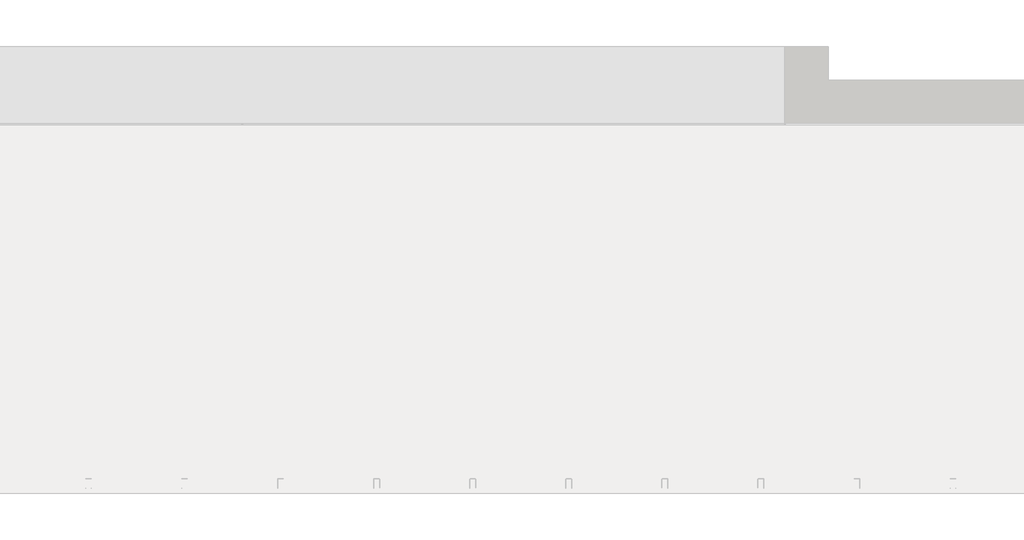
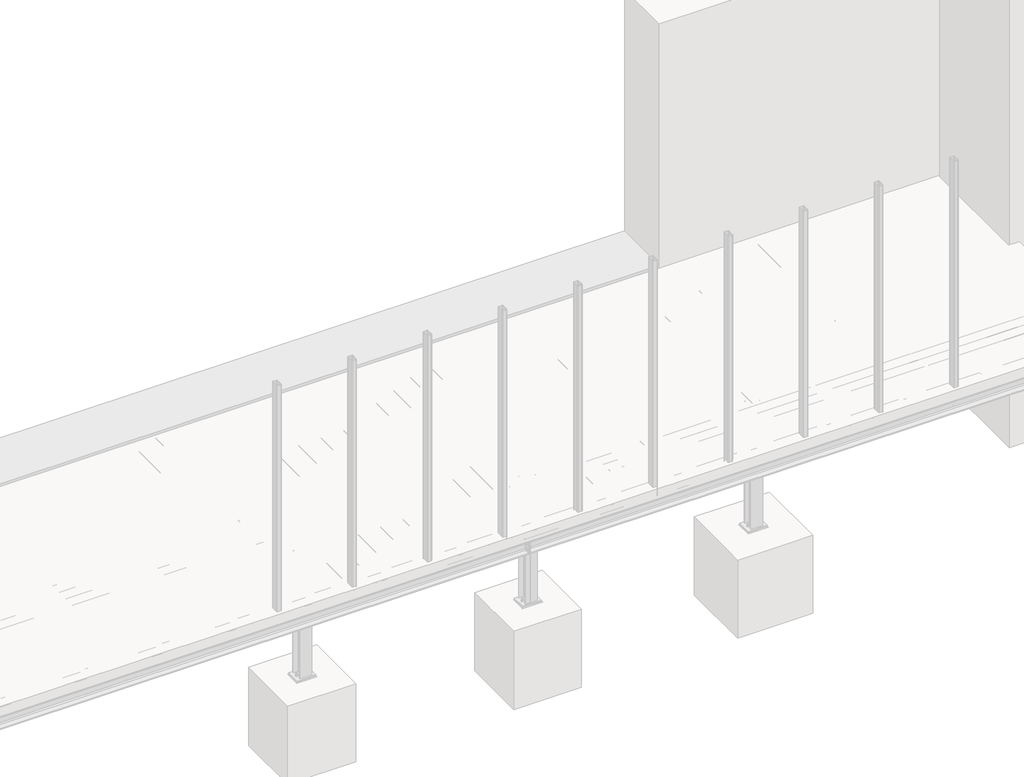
# One storey, part 30 of 36: 3 assemblies.
"""IFC4 building model written with IfcOpenShell, lengths in millimetres."""

from ifc_helpers import new_model, si_unit, point, frame, frame_2d, origin, place, context, project, spatial, polyline, circle_curve, trimmed, segment, composite_curve, outline, extrude, element, save

model = new_model("IFC4")

# Units and contexts
model_context = context("Model", 3, world=origin())
ifc_project = project(units=[si_unit("LENGTHUNIT", "METRE", prefix="MILLI")], contexts=[model_context])

# Site, building, storey
site = spatial("IfcSite", under=ifc_project)
building = spatial("IfcBuilding", under=site)
storey = spatial("IfcBuildingStorey", under=building, Name="Základy", Elevation=-1200.0)

# Assemblies
placement = place(None, origin())
element("IfcElementAssembly", 1, at=placement, inside=storey, context=model_context, shape_type="SweptSolid", body=[
    extrude(outline(polyline([(3860.0, -160.0), (3860.0, -340.0), (3785.0, -340.0), (3785.0, -329.5), (3854.5, -329.5), (3854.5, -170.5), (3785.0, -170.5), (3785.0, -160.0), (3860.0, -160.0)])), frame((6660.0, 0.0, 0.0), z_axis=(1.0, 0.0, 0.0), x_axis=(0.0, 1.0, 0.0)), (0.0, 0.0, 1.0), 5635.0),
    extrude(outline(composite_curve([segment(polyline([(3785.0, -170.5), (3834.5, -170.5)]), True, "CONTINUOUS"), segment(trimmed(circle_curve(frame_2d((3854.5, -170.5)), 20.0), [point((3834.5, -170.5))], [point((3854.5, -190.5))], True, "CARTESIAN"), True, "CONTINUOUS"), segment(polyline([(3854.5, -190.5), (3854.5, -309.5)]), True, "CONTINUOUS"), segment(trimmed(circle_curve(frame_2d((3854.5, -329.5)), 20.0), [point((3854.5, -309.5))], [point((3834.5, -329.5))], True, "CARTESIAN"), True, "CONTINUOUS"), segment(polyline([(3834.5, -329.5), (3785.0, -329.5), (3785.0, -170.5)]), True, "CONTINUOUS")], self_intersect=False)), frame((9046.0, 0.0, 0.0), z_axis=(1.0, 0.0, 0.0), x_axis=(0.0, 1.0, 0.0)), (0.0, 0.0, 1.0), 8.0),
    extrude(outline(polyline([(8960.0, 3785.0), (9140.0, 3785.0), (9140.0, 3775.0), (8960.0, 3775.0), (8960.0, 3785.0)])), frame((0.0, 0.0, -332.0), z_axis=(0.0, 0.0, 1.0), x_axis=(1.0, 0.0, 0.0)), (0.0, 0.0, 1.0), 164.0),
    extrude(outline(composite_curve([segment(polyline([(3785.0, -170.5), (3834.5, -170.5)]), True, "CONTINUOUS"), segment(trimmed(circle_curve(frame_2d((3854.5, -170.5)), 20.0), [point((3834.5, -170.5))], [point((3854.5, -190.5))], True, "CARTESIAN"), True, "CONTINUOUS"), segment(polyline([(3854.5, -190.5), (3854.5, -309.5)]), True, "CONTINUOUS"), segment(trimmed(circle_curve(frame_2d((3854.5, -329.5)), 20.0), [point((3854.5, -309.5))], [point((3834.5, -329.5))], True, "CARTESIAN"), True, "CONTINUOUS"), segment(polyline([(3834.5, -329.5), (3785.0, -329.5), (3785.0, -170.5)]), True, "CONTINUOUS")], self_intersect=False)), frame((12046.0, 0.0, 0.0), z_axis=(1.0, 0.0, 0.0), x_axis=(0.0, 1.0, 0.0)), (0.0, 0.0, 1.0), 8.0),
    extrude(outline(polyline([(11960.0, 3785.0), (12140.0, 3785.0), (12140.0, 3775.0), (11960.0, 3775.0), (11960.0, 3785.0)])), frame((0.0, 0.0, -332.0), z_axis=(0.0, 0.0, 1.0), x_axis=(1.0, 0.0, 0.0)), (0.0, 0.0, 1.0), 164.0),
    extrude(outline(polyline([(6660.0, 3855.0), (6660.0, 3785.0), (6650.0, 3785.0), (6650.0, 3855.0), (6660.0, 3855.0)])), frame((0.0, 0.0, -329.5), z_axis=(0.0, 0.0, 1.0), x_axis=(1.0, 0.0, 0.0)), (0.0, 0.0, 1.0), 159.0),
    extrude(outline(polyline([(12305.0, 3855.0), (12305.0, 3765.0), (12295.0, 3765.0), (12295.0, 3855.0), (12305.0, 3855.0)])), frame((0.0, 0.0, -329.5), z_axis=(0.0, 0.0, 1.0), x_axis=(1.0, 0.0, 0.0)), (0.0, 0.0, 1.0), 159.0),
    extrude(outline(composite_curve([segment(trimmed(circle_curve(frame_2d((-220.0, 9005.0)), 9.0), [point((-220.0, 9014.0))], [point((-220.0, 8996.0))], False, "CARTESIAN"), True, "CONTINUOUS"), segment(trimmed(circle_curve(frame_2d((-220.0, 9005.0)), 9.0), [point((-220.0, 8996.0))], [point((-220.0, 9014.0))], False, "CARTESIAN"), True, "CONTINUOUS")], self_intersect=False)), frame((0.0, 3774.9, 0.0), z_axis=(0.0, 1.0, 0.0), x_axis=(0.0, 0.0, 1.0)), (0.0, 0.0, 1.0), 10.0),
    extrude(outline(polyline([(-220.0, 9018.8564065), (-208.0, 9011.9282032), (-208.0, 8998.0717968), (-220.0, 8991.1435935), (-232.0, 8998.0717968), (-232.0, 9011.9282032), (-220.0, 9018.8564065)])), frame((0.0, 3788.0, 0.0), z_axis=(0.0, 1.0, 0.0), x_axis=(0.0, 0.0, 1.0)), (0.0, 0.0, 1.0), 10.0),
    extrude(outline(composite_curve([segment(trimmed(circle_curve(frame_2d((-220.0, 9005.0)), 8.0), [point((-220.0, 9013.0))], [point((-220.0, 8997.0))], False, "CARTESIAN"), True, "CONTINUOUS"), segment(trimmed(circle_curve(frame_2d((-220.0, 9005.0)), 8.0), [point((-220.0, 8997.0))], [point((-220.0, 9013.0))], False, "CARTESIAN"), True, "CONTINUOUS")], self_intersect=False)), frame((0.0, 3738.0, 0.0), z_axis=(0.0, 1.0, 0.0), x_axis=(0.0, 0.0, 1.0)), (0.0, 0.0, 1.0), 50.0),
    extrude(outline(composite_curve([segment(trimmed(circle_curve(frame_2d((-220.0, 9005.0)), 15.0), [point((-220.0, 9020.0))], [point((-220.0, 8990.0))], False, "CARTESIAN"), True, "CONTINUOUS"), segment(trimmed(circle_curve(frame_2d((-220.0, 9005.0)), 15.0), [point((-220.0, 8990.0))], [point((-220.0, 9020.0))], False, "CARTESIAN"), True, "CONTINUOUS")], self_intersect=False)), frame((0.0, 3785.0, 0.0), z_axis=(0.0, 1.0, 0.0), x_axis=(0.0, 0.0, 1.0)), (0.0, 0.0, 1.0), 3.0),
    extrude(outline(composite_curve([segment(trimmed(circle_curve(frame_2d((-220.0, 9005.0)), 15.0), [point((-220.0, 9020.0))], [point((-220.0, 8990.0))], False, "CARTESIAN"), True, "CONTINUOUS"), segment(trimmed(circle_curve(frame_2d((-220.0, 9005.0)), 15.0), [point((-220.0, 8990.0))], [point((-220.0, 9020.0))], False, "CARTESIAN"), True, "CONTINUOUS")], self_intersect=False)), frame((0.0, 3764.0, 0.0), z_axis=(0.0, 1.0, 0.0), x_axis=(0.0, 0.0, 1.0)), (0.0, 0.0, 1.0), 3.0),
    extrude(outline(polyline([(-220.0, 9020.4441197), (-206.625, 9012.7220599), (-206.625, 8997.2779401), (-220.0, 8989.5558803), (-233.375, 8997.2779401), (-233.375, 9012.7220599), (-220.0, 9020.4441197)])), frame((0.0, 3751.0, 0.0), z_axis=(0.0, 1.0, 0.0), x_axis=(0.0, 0.0, 1.0)), (0.0, 0.0, 1.0), 13.0),
    extrude(outline(composite_curve([segment(trimmed(circle_curve(frame_2d((-220.0, 9005.0)), 9.0), [point((-220.0, 9014.0))], [point((-220.0, 8996.0))], False, "CARTESIAN"), True, "CONTINUOUS"), segment(trimmed(circle_curve(frame_2d((-220.0, 9005.0)), 9.0), [point((-220.0, 8996.0))], [point((-220.0, 9014.0))], False, "CARTESIAN"), True, "CONTINUOUS")], self_intersect=False)), frame((0.0, 3767.0, 0.0), z_axis=(0.0, 1.0, 0.0), x_axis=(0.0, 0.0, 1.0)), (0.0, 0.0, 1.0), 8.1),
    extrude(outline(composite_curve([segment(trimmed(circle_curve(frame_2d((-220.0, 9095.0)), 9.0), [point((-220.0, 9104.0))], [point((-220.0, 9086.0))], False, "CARTESIAN"), True, "CONTINUOUS"), segment(trimmed(circle_curve(frame_2d((-220.0, 9095.0)), 9.0), [point((-220.0, 9086.0))], [point((-220.0, 9104.0))], False, "CARTESIAN"), True, "CONTINUOUS")], self_intersect=False)), frame((0.0, 3774.9, 0.0), z_axis=(0.0, 1.0, 0.0), x_axis=(0.0, 0.0, 1.0)), (0.0, 0.0, 1.0), 10.0),
    extrude(outline(polyline([(-220.0, 9108.8564065), (-208.0, 9101.9282032), (-208.0, 9088.0717968), (-220.0, 9081.1435935), (-232.0, 9088.0717968), (-232.0, 9101.9282032), (-220.0, 9108.8564065)])), frame((0.0, 3788.0, 0.0), z_axis=(0.0, 1.0, 0.0), x_axis=(0.0, 0.0, 1.0)), (0.0, 0.0, 1.0), 10.0),
    extrude(outline(composite_curve([segment(trimmed(circle_curve(frame_2d((-220.0, 9095.0)), 8.0), [point((-220.0, 9103.0))], [point((-220.0, 9087.0))], False, "CARTESIAN"), True, "CONTINUOUS"), segment(trimmed(circle_curve(frame_2d((-220.0, 9095.0)), 8.0), [point((-220.0, 9087.0))], [point((-220.0, 9103.0))], False, "CARTESIAN"), True, "CONTINUOUS")], self_intersect=False)), frame((0.0, 3738.0, 0.0), z_axis=(0.0, 1.0, 0.0), x_axis=(0.0, 0.0, 1.0)), (0.0, 0.0, 1.0), 50.0),
    extrude(outline(composite_curve([segment(trimmed(circle_curve(frame_2d((-220.0, 9095.0)), 15.0), [point((-220.0, 9110.0))], [point((-220.0, 9080.0))], False, "CARTESIAN"), True, "CONTINUOUS"), segment(trimmed(circle_curve(frame_2d((-220.0, 9095.0)), 15.0), [point((-220.0, 9080.0))], [point((-220.0, 9110.0))], False, "CARTESIAN"), True, "CONTINUOUS")], self_intersect=False)), frame((0.0, 3785.0, 0.0), z_axis=(0.0, 1.0, 0.0), x_axis=(0.0, 0.0, 1.0)), (0.0, 0.0, 1.0), 3.0),
    extrude(outline(composite_curve([segment(trimmed(circle_curve(frame_2d((-220.0, 9095.0)), 15.0), [point((-220.0, 9110.0))], [point((-220.0, 9080.0))], False, "CARTESIAN"), True, "CONTINUOUS"), segment(trimmed(circle_curve(frame_2d((-220.0, 9095.0)), 15.0), [point((-220.0, 9080.0))], [point((-220.0, 9110.0))], False, "CARTESIAN"), True, "CONTINUOUS")], self_intersect=False)), frame((0.0, 3764.0, 0.0), z_axis=(0.0, 1.0, 0.0), x_axis=(0.0, 0.0, 1.0)), (0.0, 0.0, 1.0), 3.0),
    extrude(outline(polyline([(-220.0, 9110.4441197), (-206.625, 9102.7220599), (-206.625, 9087.2779401), (-220.0, 9079.5558803), (-233.375, 9087.2779401), (-233.375, 9102.7220599), (-220.0, 9110.4441197)])), frame((0.0, 3751.0, 0.0), z_axis=(0.0, 1.0, 0.0), x_axis=(0.0, 0.0, 1.0)), (0.0, 0.0, 1.0), 13.0),
    extrude(outline(composite_curve([segment(trimmed(circle_curve(frame_2d((-220.0, 9095.0)), 9.0), [point((-220.0, 9104.0))], [point((-220.0, 9086.0))], False, "CARTESIAN"), True, "CONTINUOUS"), segment(trimmed(circle_curve(frame_2d((-220.0, 9095.0)), 9.0), [point((-220.0, 9086.0))], [point((-220.0, 9104.0))], False, "CARTESIAN"), True, "CONTINUOUS")], self_intersect=False)), frame((0.0, 3767.0, 0.0), z_axis=(0.0, 1.0, 0.0), x_axis=(0.0, 0.0, 1.0)), (0.0, 0.0, 1.0), 8.1),
    extrude(outline(composite_curve([segment(trimmed(circle_curve(frame_2d((-280.0, 9005.0)), 9.0), [point((-280.0, 9014.0))], [point((-280.0, 8996.0))], False, "CARTESIAN"), True, "CONTINUOUS"), segment(trimmed(circle_curve(frame_2d((-280.0, 9005.0)), 9.0), [point((-280.0, 8996.0))], [point((-280.0, 9014.0))], False, "CARTESIAN"), True, "CONTINUOUS")], self_intersect=False)), frame((0.0, 3774.9, 0.0), z_axis=(0.0, 1.0, 0.0), x_axis=(0.0, 0.0, 1.0)), (0.0, 0.0, 1.0), 10.0),
    extrude(outline(polyline([(-280.0, 9018.8564065), (-268.0, 9011.9282032), (-268.0, 8998.0717968), (-280.0, 8991.1435935), (-292.0, 8998.0717968), (-292.0, 9011.9282032), (-280.0, 9018.8564065)])), frame((0.0, 3788.0, 0.0), z_axis=(0.0, 1.0, 0.0), x_axis=(0.0, 0.0, 1.0)), (0.0, 0.0, 1.0), 10.0),
    extrude(outline(composite_curve([segment(trimmed(circle_curve(frame_2d((-280.0, 9005.0)), 8.0), [point((-280.0, 9013.0))], [point((-280.0, 8997.0))], False, "CARTESIAN"), True, "CONTINUOUS"), segment(trimmed(circle_curve(frame_2d((-280.0, 9005.0)), 8.0), [point((-280.0, 8997.0))], [point((-280.0, 9013.0))], False, "CARTESIAN"), True, "CONTINUOUS")], self_intersect=False)), frame((0.0, 3738.0, 0.0), z_axis=(0.0, 1.0, 0.0), x_axis=(0.0, 0.0, 1.0)), (0.0, 0.0, 1.0), 50.0),
    extrude(outline(composite_curve([segment(trimmed(circle_curve(frame_2d((-280.0, 9005.0)), 15.0), [point((-280.0, 9020.0))], [point((-280.0, 8990.0))], False, "CARTESIAN"), True, "CONTINUOUS"), segment(trimmed(circle_curve(frame_2d((-280.0, 9005.0)), 15.0), [point((-280.0, 8990.0))], [point((-280.0, 9020.0))], False, "CARTESIAN"), True, "CONTINUOUS")], self_intersect=False)), frame((0.0, 3785.0, 0.0), z_axis=(0.0, 1.0, 0.0), x_axis=(0.0, 0.0, 1.0)), (0.0, 0.0, 1.0), 3.0),
    extrude(outline(composite_curve([segment(trimmed(circle_curve(frame_2d((-280.0, 9005.0)), 15.0), [point((-280.0, 9020.0))], [point((-280.0, 8990.0))], False, "CARTESIAN"), True, "CONTINUOUS"), segment(trimmed(circle_curve(frame_2d((-280.0, 9005.0)), 15.0), [point((-280.0, 8990.0))], [point((-280.0, 9020.0))], False, "CARTESIAN"), True, "CONTINUOUS")], self_intersect=False)), frame((0.0, 3764.0, 0.0), z_axis=(0.0, 1.0, 0.0), x_axis=(0.0, 0.0, 1.0)), (0.0, 0.0, 1.0), 3.0),
    extrude(outline(polyline([(-280.0, 9020.4441197), (-266.625, 9012.7220599), (-266.625, 8997.2779401), (-280.0, 8989.5558803), (-293.375, 8997.2779401), (-293.375, 9012.7220599), (-280.0, 9020.4441197)])), frame((0.0, 3751.0, 0.0), z_axis=(0.0, 1.0, 0.0), x_axis=(0.0, 0.0, 1.0)), (0.0, 0.0, 1.0), 13.0),
    extrude(outline(composite_curve([segment(trimmed(circle_curve(frame_2d((-280.0, 9005.0)), 9.0), [point((-280.0, 9014.0))], [point((-280.0, 8996.0))], False, "CARTESIAN"), True, "CONTINUOUS"), segment(trimmed(circle_curve(frame_2d((-280.0, 9005.0)), 9.0), [point((-280.0, 8996.0))], [point((-280.0, 9014.0))], False, "CARTESIAN"), True, "CONTINUOUS")], self_intersect=False)), frame((0.0, 3767.0, 0.0), z_axis=(0.0, 1.0, 0.0), x_axis=(0.0, 0.0, 1.0)), (0.0, 0.0, 1.0), 8.1),
    extrude(outline(composite_curve([segment(trimmed(circle_curve(frame_2d((-280.0, 9095.0)), 9.0), [point((-280.0, 9104.0))], [point((-280.0, 9086.0))], False, "CARTESIAN"), True, "CONTINUOUS"), segment(trimmed(circle_curve(frame_2d((-280.0, 9095.0)), 9.0), [point((-280.0, 9086.0))], [point((-280.0, 9104.0))], False, "CARTESIAN"), True, "CONTINUOUS")], self_intersect=False)), frame((0.0, 3774.9, 0.0), z_axis=(0.0, 1.0, 0.0), x_axis=(0.0, 0.0, 1.0)), (0.0, 0.0, 1.0), 10.0),
    extrude(outline(polyline([(-280.0, 9108.8564065), (-268.0, 9101.9282032), (-268.0, 9088.0717968), (-280.0, 9081.1435935), (-292.0, 9088.0717968), (-292.0, 9101.9282032), (-280.0, 9108.8564065)])), frame((0.0, 3788.0, 0.0), z_axis=(0.0, 1.0, 0.0), x_axis=(0.0, 0.0, 1.0)), (0.0, 0.0, 1.0), 10.0),
    extrude(outline(composite_curve([segment(trimmed(circle_curve(frame_2d((-280.0, 9095.0)), 8.0), [point((-280.0, 9103.0))], [point((-280.0, 9087.0))], False, "CARTESIAN"), True, "CONTINUOUS"), segment(trimmed(circle_curve(frame_2d((-280.0, 9095.0)), 8.0), [point((-280.0, 9087.0))], [point((-280.0, 9103.0))], False, "CARTESIAN"), True, "CONTINUOUS")], self_intersect=False)), frame((0.0, 3738.0, 0.0), z_axis=(0.0, 1.0, 0.0), x_axis=(0.0, 0.0, 1.0)), (0.0, 0.0, 1.0), 50.0),
    extrude(outline(composite_curve([segment(trimmed(circle_curve(frame_2d((-280.0, 9095.0)), 15.0), [point((-280.0, 9110.0))], [point((-280.0, 9080.0))], False, "CARTESIAN"), True, "CONTINUOUS"), segment(trimmed(circle_curve(frame_2d((-280.0, 9095.0)), 15.0), [point((-280.0, 9080.0))], [point((-280.0, 9110.0))], False, "CARTESIAN"), True, "CONTINUOUS")], self_intersect=False)), frame((0.0, 3785.0, 0.0), z_axis=(0.0, 1.0, 0.0), x_axis=(0.0, 0.0, 1.0)), (0.0, 0.0, 1.0), 3.0),
    extrude(outline(composite_curve([segment(trimmed(circle_curve(frame_2d((-280.0, 9095.0)), 15.0), [point((-280.0, 9110.0))], [point((-280.0, 9080.0))], False, "CARTESIAN"), True, "CONTINUOUS"), segment(trimmed(circle_curve(frame_2d((-280.0, 9095.0)), 15.0), [point((-280.0, 9080.0))], [point((-280.0, 9110.0))], False, "CARTESIAN"), True, "CONTINUOUS")], self_intersect=False)), frame((0.0, 3764.0, 0.0), z_axis=(0.0, 1.0, 0.0), x_axis=(0.0, 0.0, 1.0)), (0.0, 0.0, 1.0), 3.0),
    extrude(outline(polyline([(-280.0, 9110.4441197), (-266.625, 9102.7220599), (-266.625, 9087.2779401), (-280.0, 9079.5558803), (-293.375, 9087.2779401), (-293.375, 9102.7220599), (-280.0, 9110.4441197)])), frame((0.0, 3751.0, 0.0), z_axis=(0.0, 1.0, 0.0), x_axis=(0.0, 0.0, 1.0)), (0.0, 0.0, 1.0), 13.0),
    extrude(outline(composite_curve([segment(trimmed(circle_curve(frame_2d((-280.0, 9095.0)), 9.0), [point((-280.0, 9104.0))], [point((-280.0, 9086.0))], False, "CARTESIAN"), True, "CONTINUOUS"), segment(trimmed(circle_curve(frame_2d((-280.0, 9095.0)), 9.0), [point((-280.0, 9086.0))], [point((-280.0, 9104.0))], False, "CARTESIAN"), True, "CONTINUOUS")], self_intersect=False)), frame((0.0, 3767.0, 0.0), z_axis=(0.0, 1.0, 0.0), x_axis=(0.0, 0.0, 1.0)), (0.0, 0.0, 1.0), 8.1),
    extrude(outline(composite_curve([segment(trimmed(circle_curve(frame_2d((-220.0, 12005.0)), 9.0), [point((-220.0, 12014.0))], [point((-220.0, 11996.0))], False, "CARTESIAN"), True, "CONTINUOUS"), segment(trimmed(circle_curve(frame_2d((-220.0, 12005.0)), 9.0), [point((-220.0, 11996.0))], [point((-220.0, 12014.0))], False, "CARTESIAN"), True, "CONTINUOUS")], self_intersect=False)), frame((0.0, 3774.9, 0.0), z_axis=(0.0, 1.0, 0.0), x_axis=(0.0, 0.0, 1.0)), (0.0, 0.0, 1.0), 10.0),
    extrude(outline(polyline([(-220.0, 12018.8564065), (-208.0, 12011.9282032), (-208.0, 11998.0717968), (-220.0, 11991.1435935), (-232.0, 11998.0717968), (-232.0, 12011.9282032), (-220.0, 12018.8564065)])), frame((0.0, 3788.0, 0.0), z_axis=(0.0, 1.0, 0.0), x_axis=(0.0, 0.0, 1.0)), (0.0, 0.0, 1.0), 10.0),
    extrude(outline(composite_curve([segment(trimmed(circle_curve(frame_2d((-220.0, 12005.0)), 8.0), [point((-220.0, 12013.0))], [point((-220.0, 11997.0))], False, "CARTESIAN"), True, "CONTINUOUS"), segment(trimmed(circle_curve(frame_2d((-220.0, 12005.0)), 8.0), [point((-220.0, 11997.0))], [point((-220.0, 12013.0))], False, "CARTESIAN"), True, "CONTINUOUS")], self_intersect=False)), frame((0.0, 3738.0, 0.0), z_axis=(0.0, 1.0, 0.0), x_axis=(0.0, 0.0, 1.0)), (0.0, 0.0, 1.0), 50.0),
    extrude(outline(composite_curve([segment(trimmed(circle_curve(frame_2d((-220.0, 12005.0)), 15.0), [point((-220.0, 12020.0))], [point((-220.0, 11990.0))], False, "CARTESIAN"), True, "CONTINUOUS"), segment(trimmed(circle_curve(frame_2d((-220.0, 12005.0)), 15.0), [point((-220.0, 11990.0))], [point((-220.0, 12020.0))], False, "CARTESIAN"), True, "CONTINUOUS")], self_intersect=False)), frame((0.0, 3785.0, 0.0), z_axis=(0.0, 1.0, 0.0), x_axis=(0.0, 0.0, 1.0)), (0.0, 0.0, 1.0), 3.0),
    extrude(outline(composite_curve([segment(trimmed(circle_curve(frame_2d((-220.0, 12005.0)), 15.0), [point((-220.0, 12020.0))], [point((-220.0, 11990.0))], False, "CARTESIAN"), True, "CONTINUOUS"), segment(trimmed(circle_curve(frame_2d((-220.0, 12005.0)), 15.0), [point((-220.0, 11990.0))], [point((-220.0, 12020.0))], False, "CARTESIAN"), True, "CONTINUOUS")], self_intersect=False)), frame((0.0, 3764.0, 0.0), z_axis=(0.0, 1.0, 0.0), x_axis=(0.0, 0.0, 1.0)), (0.0, 0.0, 1.0), 3.0),
    extrude(outline(polyline([(-220.0, 12020.4441197), (-206.625, 12012.7220599), (-206.625, 11997.2779401), (-220.0, 11989.5558803), (-233.375, 11997.2779401), (-233.375, 12012.7220599), (-220.0, 12020.4441197)])), frame((0.0, 3751.0, 0.0), z_axis=(0.0, 1.0, 0.0), x_axis=(0.0, 0.0, 1.0)), (0.0, 0.0, 1.0), 13.0),
    extrude(outline(composite_curve([segment(trimmed(circle_curve(frame_2d((-220.0, 12005.0)), 9.0), [point((-220.0, 12014.0))], [point((-220.0, 11996.0))], False, "CARTESIAN"), True, "CONTINUOUS"), segment(trimmed(circle_curve(frame_2d((-220.0, 12005.0)), 9.0), [point((-220.0, 11996.0))], [point((-220.0, 12014.0))], False, "CARTESIAN"), True, "CONTINUOUS")], self_intersect=False)), frame((0.0, 3767.0, 0.0), z_axis=(0.0, 1.0, 0.0), x_axis=(0.0, 0.0, 1.0)), (0.0, 0.0, 1.0), 8.1),
    extrude(outline(composite_curve([segment(trimmed(circle_curve(frame_2d((-220.0, 12095.0)), 9.0), [point((-220.0, 12104.0))], [point((-220.0, 12086.0))], False, "CARTESIAN"), True, "CONTINUOUS"), segment(trimmed(circle_curve(frame_2d((-220.0, 12095.0)), 9.0), [point((-220.0, 12086.0))], [point((-220.0, 12104.0))], False, "CARTESIAN"), True, "CONTINUOUS")], self_intersect=False)), frame((0.0, 3774.9, 0.0), z_axis=(0.0, 1.0, 0.0), x_axis=(0.0, 0.0, 1.0)), (0.0, 0.0, 1.0), 10.0),
    extrude(outline(polyline([(-220.0, 12108.8564065), (-208.0, 12101.9282032), (-208.0, 12088.0717968), (-220.0, 12081.1435935), (-232.0, 12088.0717968), (-232.0, 12101.9282032), (-220.0, 12108.8564065)])), frame((0.0, 3788.0, 0.0), z_axis=(0.0, 1.0, 0.0), x_axis=(0.0, 0.0, 1.0)), (0.0, 0.0, 1.0), 10.0),
    extrude(outline(composite_curve([segment(trimmed(circle_curve(frame_2d((-220.0, 12095.0)), 8.0), [point((-220.0, 12103.0))], [point((-220.0, 12087.0))], False, "CARTESIAN"), True, "CONTINUOUS"), segment(trimmed(circle_curve(frame_2d((-220.0, 12095.0)), 8.0), [point((-220.0, 12087.0))], [point((-220.0, 12103.0))], False, "CARTESIAN"), True, "CONTINUOUS")], self_intersect=False)), frame((0.0, 3738.0, 0.0), z_axis=(0.0, 1.0, 0.0), x_axis=(0.0, 0.0, 1.0)), (0.0, 0.0, 1.0), 50.0),
    extrude(outline(composite_curve([segment(trimmed(circle_curve(frame_2d((-220.0, 12095.0)), 15.0), [point((-220.0, 12110.0))], [point((-220.0, 12080.0))], False, "CARTESIAN"), True, "CONTINUOUS"), segment(trimmed(circle_curve(frame_2d((-220.0, 12095.0)), 15.0), [point((-220.0, 12080.0))], [point((-220.0, 12110.0))], False, "CARTESIAN"), True, "CONTINUOUS")], self_intersect=False)), frame((0.0, 3785.0, 0.0), z_axis=(0.0, 1.0, 0.0), x_axis=(0.0, 0.0, 1.0)), (0.0, 0.0, 1.0), 3.0),
    extrude(outline(composite_curve([segment(trimmed(circle_curve(frame_2d((-220.0, 12095.0)), 15.0), [point((-220.0, 12110.0))], [point((-220.0, 12080.0))], False, "CARTESIAN"), True, "CONTINUOUS"), segment(trimmed(circle_curve(frame_2d((-220.0, 12095.0)), 15.0), [point((-220.0, 12080.0))], [point((-220.0, 12110.0))], False, "CARTESIAN"), True, "CONTINUOUS")], self_intersect=False)), frame((0.0, 3764.0, 0.0), z_axis=(0.0, 1.0, 0.0), x_axis=(0.0, 0.0, 1.0)), (0.0, 0.0, 1.0), 3.0),
    extrude(outline(polyline([(-220.0, 12110.4441197), (-206.625, 12102.7220599), (-206.625, 12087.2779401), (-220.0, 12079.5558803), (-233.375, 12087.2779401), (-233.375, 12102.7220599), (-220.0, 12110.4441197)])), frame((0.0, 3751.0, 0.0), z_axis=(0.0, 1.0, 0.0), x_axis=(0.0, 0.0, 1.0)), (0.0, 0.0, 1.0), 13.0),
    extrude(outline(composite_curve([segment(trimmed(circle_curve(frame_2d((-220.0, 12095.0)), 9.0), [point((-220.0, 12104.0))], [point((-220.0, 12086.0))], False, "CARTESIAN"), True, "CONTINUOUS"), segment(trimmed(circle_curve(frame_2d((-220.0, 12095.0)), 9.0), [point((-220.0, 12086.0))], [point((-220.0, 12104.0))], False, "CARTESIAN"), True, "CONTINUOUS")], self_intersect=False)), frame((0.0, 3767.0, 0.0), z_axis=(0.0, 1.0, 0.0), x_axis=(0.0, 0.0, 1.0)), (0.0, 0.0, 1.0), 8.1),
    extrude(outline(composite_curve([segment(trimmed(circle_curve(frame_2d((-280.0, 12005.0)), 9.0), [point((-280.0, 12014.0))], [point((-280.0, 11996.0))], False, "CARTESIAN"), True, "CONTINUOUS"), segment(trimmed(circle_curve(frame_2d((-280.0, 12005.0)), 9.0), [point((-280.0, 11996.0))], [point((-280.0, 12014.0))], False, "CARTESIAN"), True, "CONTINUOUS")], self_intersect=False)), frame((0.0, 3774.9, 0.0), z_axis=(0.0, 1.0, 0.0), x_axis=(0.0, 0.0, 1.0)), (0.0, 0.0, 1.0), 10.0),
    extrude(outline(polyline([(-280.0, 12018.8564065), (-268.0, 12011.9282032), (-268.0, 11998.0717968), (-280.0, 11991.1435935), (-292.0, 11998.0717968), (-292.0, 12011.9282032), (-280.0, 12018.8564065)])), frame((0.0, 3788.0, 0.0), z_axis=(0.0, 1.0, 0.0), x_axis=(0.0, 0.0, 1.0)), (0.0, 0.0, 1.0), 10.0),
    extrude(outline(composite_curve([segment(trimmed(circle_curve(frame_2d((-280.0, 12005.0)), 8.0), [point((-280.0, 12013.0))], [point((-280.0, 11997.0))], False, "CARTESIAN"), True, "CONTINUOUS"), segment(trimmed(circle_curve(frame_2d((-280.0, 12005.0)), 8.0), [point((-280.0, 11997.0))], [point((-280.0, 12013.0))], False, "CARTESIAN"), True, "CONTINUOUS")], self_intersect=False)), frame((0.0, 3738.0, 0.0), z_axis=(0.0, 1.0, 0.0), x_axis=(0.0, 0.0, 1.0)), (0.0, 0.0, 1.0), 50.0),
    extrude(outline(composite_curve([segment(trimmed(circle_curve(frame_2d((-280.0, 12005.0)), 15.0), [point((-280.0, 12020.0))], [point((-280.0, 11990.0))], False, "CARTESIAN"), True, "CONTINUOUS"), segment(trimmed(circle_curve(frame_2d((-280.0, 12005.0)), 15.0), [point((-280.0, 11990.0))], [point((-280.0, 12020.0))], False, "CARTESIAN"), True, "CONTINUOUS")], self_intersect=False)), frame((0.0, 3785.0, 0.0), z_axis=(0.0, 1.0, 0.0), x_axis=(0.0, 0.0, 1.0)), (0.0, 0.0, 1.0), 3.0),
    extrude(outline(composite_curve([segment(trimmed(circle_curve(frame_2d((-280.0, 12005.0)), 15.0), [point((-280.0, 12020.0))], [point((-280.0, 11990.0))], False, "CARTESIAN"), True, "CONTINUOUS"), segment(trimmed(circle_curve(frame_2d((-280.0, 12005.0)), 15.0), [point((-280.0, 11990.0))], [point((-280.0, 12020.0))], False, "CARTESIAN"), True, "CONTINUOUS")], self_intersect=False)), frame((0.0, 3764.0, 0.0), z_axis=(0.0, 1.0, 0.0), x_axis=(0.0, 0.0, 1.0)), (0.0, 0.0, 1.0), 3.0),
    extrude(outline(polyline([(-280.0, 12020.4441197), (-266.625, 12012.7220599), (-266.625, 11997.2779401), (-280.0, 11989.5558803), (-293.375, 11997.2779401), (-293.375, 12012.7220599), (-280.0, 12020.4441197)])), frame((0.0, 3751.0, 0.0), z_axis=(0.0, 1.0, 0.0), x_axis=(0.0, 0.0, 1.0)), (0.0, 0.0, 1.0), 13.0),
    extrude(outline(composite_curve([segment(trimmed(circle_curve(frame_2d((-280.0, 12005.0)), 9.0), [point((-280.0, 12014.0))], [point((-280.0, 11996.0))], False, "CARTESIAN"), True, "CONTINUOUS"), segment(trimmed(circle_curve(frame_2d((-280.0, 12005.0)), 9.0), [point((-280.0, 11996.0))], [point((-280.0, 12014.0))], False, "CARTESIAN"), True, "CONTINUOUS")], self_intersect=False)), frame((0.0, 3767.0, 0.0), z_axis=(0.0, 1.0, 0.0), x_axis=(0.0, 0.0, 1.0)), (0.0, 0.0, 1.0), 8.1),
    extrude(outline(composite_curve([segment(trimmed(circle_curve(frame_2d((-280.0, 12095.0)), 9.0), [point((-280.0, 12104.0))], [point((-280.0, 12086.0))], False, "CARTESIAN"), True, "CONTINUOUS"), segment(trimmed(circle_curve(frame_2d((-280.0, 12095.0)), 9.0), [point((-280.0, 12086.0))], [point((-280.0, 12104.0))], False, "CARTESIAN"), True, "CONTINUOUS")], self_intersect=False)), frame((0.0, 3774.9, 0.0), z_axis=(0.0, 1.0, 0.0), x_axis=(0.0, 0.0, 1.0)), (0.0, 0.0, 1.0), 10.0),
    extrude(outline(polyline([(-280.0, 12108.8564065), (-268.0, 12101.9282032), (-268.0, 12088.0717968), (-280.0, 12081.1435935), (-292.0, 12088.0717968), (-292.0, 12101.9282032), (-280.0, 12108.8564065)])), frame((0.0, 3788.0, 0.0), z_axis=(0.0, 1.0, 0.0), x_axis=(0.0, 0.0, 1.0)), (0.0, 0.0, 1.0), 10.0),
    extrude(outline(composite_curve([segment(trimmed(circle_curve(frame_2d((-280.0, 12095.0)), 8.0), [point((-280.0, 12103.0))], [point((-280.0, 12087.0))], False, "CARTESIAN"), True, "CONTINUOUS"), segment(trimmed(circle_curve(frame_2d((-280.0, 12095.0)), 8.0), [point((-280.0, 12087.0))], [point((-280.0, 12103.0))], False, "CARTESIAN"), True, "CONTINUOUS")], self_intersect=False)), frame((0.0, 3738.0, 0.0), z_axis=(0.0, 1.0, 0.0), x_axis=(0.0, 0.0, 1.0)), (0.0, 0.0, 1.0), 50.0),
    extrude(outline(composite_curve([segment(trimmed(circle_curve(frame_2d((-280.0, 12095.0)), 15.0), [point((-280.0, 12110.0))], [point((-280.0, 12080.0))], False, "CARTESIAN"), True, "CONTINUOUS"), segment(trimmed(circle_curve(frame_2d((-280.0, 12095.0)), 15.0), [point((-280.0, 12080.0))], [point((-280.0, 12110.0))], False, "CARTESIAN"), True, "CONTINUOUS")], self_intersect=False)), frame((0.0, 3785.0, 0.0), z_axis=(0.0, 1.0, 0.0), x_axis=(0.0, 0.0, 1.0)), (0.0, 0.0, 1.0), 3.0),
    extrude(outline(composite_curve([segment(trimmed(circle_curve(frame_2d((-280.0, 12095.0)), 15.0), [point((-280.0, 12110.0))], [point((-280.0, 12080.0))], False, "CARTESIAN"), True, "CONTINUOUS"), segment(trimmed(circle_curve(frame_2d((-280.0, 12095.0)), 15.0), [point((-280.0, 12080.0))], [point((-280.0, 12110.0))], False, "CARTESIAN"), True, "CONTINUOUS")], self_intersect=False)), frame((0.0, 3764.0, 0.0), z_axis=(0.0, 1.0, 0.0), x_axis=(0.0, 0.0, 1.0)), (0.0, 0.0, 1.0), 3.0),
    extrude(outline(polyline([(-280.0, 12110.4441197), (-266.625, 12102.7220599), (-266.625, 12087.2779401), (-280.0, 12079.5558803), (-293.375, 12087.2779401), (-293.375, 12102.7220599), (-280.0, 12110.4441197)])), frame((0.0, 3751.0, 0.0), z_axis=(0.0, 1.0, 0.0), x_axis=(0.0, 0.0, 1.0)), (0.0, 0.0, 1.0), 13.0),
    extrude(outline(composite_curve([segment(trimmed(circle_curve(frame_2d((-280.0, 12095.0)), 9.0), [point((-280.0, 12104.0))], [point((-280.0, 12086.0))], False, "CARTESIAN"), True, "CONTINUOUS"), segment(trimmed(circle_curve(frame_2d((-280.0, 12095.0)), 9.0), [point((-280.0, 12086.0))], [point((-280.0, 12104.0))], False, "CARTESIAN"), True, "CONTINUOUS")], self_intersect=False)), frame((0.0, 3767.0, 0.0), z_axis=(0.0, 1.0, 0.0), x_axis=(0.0, 0.0, 1.0)), (0.0, 0.0, 1.0), 8.1),
    extrude(outline(polyline([(-250.0, 8934.8149546), (-241.5, 8929.9074773), (-241.5, 8920.0925227), (-250.0, 8915.1850454), (-258.5, 8920.0925227), (-258.5, 8929.9074773), (-250.0, 8934.8149546)])), frame((0.0, 3860.0, 0.0), z_axis=(0.0, 1.0, 0.0), x_axis=(0.0, 0.0, 1.0)), (0.0, 0.0, 1.0), 168.0),
    extrude(outline(composite_curve([segment(trimmed(circle_curve(frame_2d((-250.0, 8925.0)), 10.0), [point((-250.0, 8935.0))], [point((-250.0, 8915.0))], False, "CARTESIAN"), True, "CONTINUOUS"), segment(trimmed(circle_curve(frame_2d((-250.0, 8925.0)), 10.0), [point((-250.0, 8915.0))], [point((-250.0, 8935.0))], False, "CARTESIAN"), True, "CONTINUOUS")], self_intersect=False)), frame((0.0, 3788.0, 0.0), z_axis=(0.0, 1.0, 0.0), x_axis=(0.0, 0.0, 1.0)), (0.0, 0.0, 1.0), 72.0),
    extrude(outline(composite_curve([segment(trimmed(circle_curve(frame_2d((-250.0, 8925.0)), 18.5), [point((-250.0, 8943.5))], [point((-250.0, 8906.5))], False, "CARTESIAN"), True, "CONTINUOUS"), segment(trimmed(circle_curve(frame_2d((-250.0, 8925.0)), 18.5), [point((-250.0, 8906.5))], [point((-250.0, 8943.5))], False, "CARTESIAN"), True, "CONTINUOUS")], self_intersect=False)), frame((0.0, 3851.5, 0.0), z_axis=(0.0, 1.0, 0.0), x_axis=(0.0, 0.0, 1.0)), (0.0, 0.0, 1.0), 3.0),
    extrude(outline(polyline([(-250.0, 8942.3205081), (-235.0, 8933.660254), (-235.0, 8916.339746), (-250.0, 8907.6794919), (-265.0, 8916.339746), (-265.0, 8933.660254), (-250.0, 8942.3205081)])), frame((0.0, 3835.5, 0.0), z_axis=(0.0, 1.0, 0.0), x_axis=(0.0, 0.0, 1.0)), (0.0, 0.0, 1.0), 16.0),
    extrude(outline(composite_curve([segment(trimmed(circle_curve(frame_2d((-250.0, 8925.0)), 11.0), [point((-250.0, 8936.0))], [point((-250.0, 8914.0))], False, "CARTESIAN"), True, "CONTINUOUS"), segment(trimmed(circle_curve(frame_2d((-250.0, 8925.0)), 11.0), [point((-250.0, 8914.0))], [point((-250.0, 8936.0))], False, "CARTESIAN"), True, "CONTINUOUS")], self_intersect=False)), frame((0.0, 3854.4, 0.0), z_axis=(0.0, 1.0, 0.0), x_axis=(0.0, 0.0, 1.0)), (0.0, 0.0, 1.0), 5.6),
    extrude(outline(polyline([(-250.0, 9184.8149546), (-241.5, 9179.9074773), (-241.5, 9170.0925227), (-250.0, 9165.1850454), (-258.5, 9170.0925227), (-258.5, 9179.9074773), (-250.0, 9184.8149546)])), frame((0.0, 3860.0, 0.0), z_axis=(0.0, 1.0, 0.0), x_axis=(0.0, 0.0, 1.0)), (0.0, 0.0, 1.0), 168.0),
    extrude(outline(composite_curve([segment(trimmed(circle_curve(frame_2d((-250.0, 9175.0)), 10.0), [point((-250.0, 9185.0))], [point((-250.0, 9165.0))], False, "CARTESIAN"), True, "CONTINUOUS"), segment(trimmed(circle_curve(frame_2d((-250.0, 9175.0)), 10.0), [point((-250.0, 9165.0))], [point((-250.0, 9185.0))], False, "CARTESIAN"), True, "CONTINUOUS")], self_intersect=False)), frame((0.0, 3788.0, 0.0), z_axis=(0.0, 1.0, 0.0), x_axis=(0.0, 0.0, 1.0)), (0.0, 0.0, 1.0), 72.0),
    extrude(outline(composite_curve([segment(trimmed(circle_curve(frame_2d((-250.0, 9175.0)), 18.5), [point((-250.0, 9193.5))], [point((-250.0, 9156.5))], False, "CARTESIAN"), True, "CONTINUOUS"), segment(trimmed(circle_curve(frame_2d((-250.0, 9175.0)), 18.5), [point((-250.0, 9156.5))], [point((-250.0, 9193.5))], False, "CARTESIAN"), True, "CONTINUOUS")], self_intersect=False)), frame((0.0, 3851.5, 0.0), z_axis=(0.0, 1.0, 0.0), x_axis=(0.0, 0.0, 1.0)), (0.0, 0.0, 1.0), 3.0),
    extrude(outline(polyline([(-250.0, 9192.3205081), (-235.0, 9183.660254), (-235.0, 9166.339746), (-250.0, 9157.6794919), (-265.0, 9166.339746), (-265.0, 9183.660254), (-250.0, 9192.3205081)])), frame((0.0, 3835.5, 0.0), z_axis=(0.0, 1.0, 0.0), x_axis=(0.0, 0.0, 1.0)), (0.0, 0.0, 1.0), 16.0),
    extrude(outline(composite_curve([segment(trimmed(circle_curve(frame_2d((-250.0, 9175.0)), 11.0), [point((-250.0, 9186.0))], [point((-250.0, 9164.0))], False, "CARTESIAN"), True, "CONTINUOUS"), segment(trimmed(circle_curve(frame_2d((-250.0, 9175.0)), 11.0), [point((-250.0, 9164.0))], [point((-250.0, 9186.0))], False, "CARTESIAN"), True, "CONTINUOUS")], self_intersect=False)), frame((0.0, 3854.4, 0.0), z_axis=(0.0, 1.0, 0.0), x_axis=(0.0, 0.0, 1.0)), (0.0, 0.0, 1.0), 5.6),
    extrude(outline(polyline([(-250.0, 11934.8149546), (-241.5, 11929.9074773), (-241.5, 11920.0925227), (-250.0, 11915.1850454), (-258.5, 11920.0925227), (-258.5, 11929.9074773), (-250.0, 11934.8149546)])), frame((0.0, 3860.0, 0.0), z_axis=(0.0, 1.0, 0.0), x_axis=(0.0, 0.0, 1.0)), (0.0, 0.0, 1.0), 168.0),
    extrude(outline(composite_curve([segment(trimmed(circle_curve(frame_2d((-250.0, 11925.0)), 10.0), [point((-250.0, 11935.0))], [point((-250.0, 11915.0))], False, "CARTESIAN"), True, "CONTINUOUS"), segment(trimmed(circle_curve(frame_2d((-250.0, 11925.0)), 10.0), [point((-250.0, 11915.0))], [point((-250.0, 11935.0))], False, "CARTESIAN"), True, "CONTINUOUS")], self_intersect=False)), frame((0.0, 3788.0, 0.0), z_axis=(0.0, 1.0, 0.0), x_axis=(0.0, 0.0, 1.0)), (0.0, 0.0, 1.0), 72.0),
    extrude(outline(composite_curve([segment(trimmed(circle_curve(frame_2d((-250.0, 11925.0)), 18.5), [point((-250.0, 11943.5))], [point((-250.0, 11906.5))], False, "CARTESIAN"), True, "CONTINUOUS"), segment(trimmed(circle_curve(frame_2d((-250.0, 11925.0)), 18.5), [point((-250.0, 11906.5))], [point((-250.0, 11943.5))], False, "CARTESIAN"), True, "CONTINUOUS")], self_intersect=False)), frame((0.0, 3851.5, 0.0), z_axis=(0.0, 1.0, 0.0), x_axis=(0.0, 0.0, 1.0)), (0.0, 0.0, 1.0), 3.0),
    extrude(outline(polyline([(-250.0, 11942.3205081), (-235.0, 11933.660254), (-235.0, 11916.339746), (-250.0, 11907.6794919), (-265.0, 11916.339746), (-265.0, 11933.660254), (-250.0, 11942.3205081)])), frame((0.0, 3835.5, 0.0), z_axis=(0.0, 1.0, 0.0), x_axis=(0.0, 0.0, 1.0)), (0.0, 0.0, 1.0), 16.0),
    extrude(outline(composite_curve([segment(trimmed(circle_curve(frame_2d((-250.0, 11925.0)), 11.0), [point((-250.0, 11936.0))], [point((-250.0, 11914.0))], False, "CARTESIAN"), True, "CONTINUOUS"), segment(trimmed(circle_curve(frame_2d((-250.0, 11925.0)), 11.0), [point((-250.0, 11914.0))], [point((-250.0, 11936.0))], False, "CARTESIAN"), True, "CONTINUOUS")], self_intersect=False)), frame((0.0, 3854.4, 0.0), z_axis=(0.0, 1.0, 0.0), x_axis=(0.0, 0.0, 1.0)), (0.0, 0.0, 1.0), 5.6),
    extrude(outline(polyline([(-250.0, 12184.8149546), (-241.5, 12179.9074773), (-241.5, 12170.0925227), (-250.0, 12165.1850454), (-258.5, 12170.0925227), (-258.5, 12179.9074773), (-250.0, 12184.8149546)])), frame((0.0, 3860.0, 0.0), z_axis=(0.0, 1.0, 0.0), x_axis=(0.0, 0.0, 1.0)), (0.0, 0.0, 1.0), 168.0),
    extrude(outline(composite_curve([segment(trimmed(circle_curve(frame_2d((-250.0, 12175.0)), 10.0), [point((-250.0, 12185.0))], [point((-250.0, 12165.0))], False, "CARTESIAN"), True, "CONTINUOUS"), segment(trimmed(circle_curve(frame_2d((-250.0, 12175.0)), 10.0), [point((-250.0, 12165.0))], [point((-250.0, 12185.0))], False, "CARTESIAN"), True, "CONTINUOUS")], self_intersect=False)), frame((0.0, 3788.0, 0.0), z_axis=(0.0, 1.0, 0.0), x_axis=(0.0, 0.0, 1.0)), (0.0, 0.0, 1.0), 72.0),
    extrude(outline(composite_curve([segment(trimmed(circle_curve(frame_2d((-250.0, 12175.0)), 18.5), [point((-250.0, 12193.5))], [point((-250.0, 12156.5))], False, "CARTESIAN"), True, "CONTINUOUS"), segment(trimmed(circle_curve(frame_2d((-250.0, 12175.0)), 18.5), [point((-250.0, 12156.5))], [point((-250.0, 12193.5))], False, "CARTESIAN"), True, "CONTINUOUS")], self_intersect=False)), frame((0.0, 3851.5, 0.0), z_axis=(0.0, 1.0, 0.0), x_axis=(0.0, 0.0, 1.0)), (0.0, 0.0, 1.0), 3.0),
    extrude(outline(polyline([(-250.0, 12192.3205081), (-235.0, 12183.660254), (-235.0, 12166.339746), (-250.0, 12157.6794919), (-265.0, 12166.339746), (-265.0, 12183.660254), (-250.0, 12192.3205081)])), frame((0.0, 3835.5, 0.0), z_axis=(0.0, 1.0, 0.0), x_axis=(0.0, 0.0, 1.0)), (0.0, 0.0, 1.0), 16.0),
    extrude(outline(composite_curve([segment(trimmed(circle_curve(frame_2d((-250.0, 12175.0)), 11.0), [point((-250.0, 12186.0))], [point((-250.0, 12164.0))], False, "CARTESIAN"), True, "CONTINUOUS"), segment(trimmed(circle_curve(frame_2d((-250.0, 12175.0)), 11.0), [point((-250.0, 12164.0))], [point((-250.0, 12186.0))], False, "CARTESIAN"), True, "CONTINUOUS")], self_intersect=False)), frame((0.0, 3854.4, 0.0), z_axis=(0.0, 1.0, 0.0), x_axis=(0.0, 0.0, 1.0)), (0.0, 0.0, 1.0), 5.6),
    extrude(outline(composite_curve([segment(trimmed(circle_curve(frame_2d((3820.5, -290.0)), 9.0), [point((3829.5, -290.0))], [point((3811.5, -290.0))], False, "CARTESIAN"), True, "CONTINUOUS"), segment(trimmed(circle_curve(frame_2d((3820.5, -290.0)), 9.0), [point((3811.5, -290.0))], [point((3829.5, -290.0))], False, "CARTESIAN"), True, "CONTINUOUS")], self_intersect=False)), frame((6649.9, 0.0, 0.0), z_axis=(1.0, 0.0, 0.0), x_axis=(0.0, 1.0, 0.0)), (0.0, 0.0, 1.0), 10.0),
    extrude(outline(polyline([(3834.3564065, -290.0), (3827.4282032, -302.0), (3813.5717968, -302.0), (3806.6435935, -290.0), (3813.5717968, -278.0), (3827.4282032, -278.0), (3834.3564065, -290.0)])), frame((6663.0, 0.0, 0.0), z_axis=(1.0, 0.0, 0.0), x_axis=(0.0, 1.0, 0.0)), (0.0, 0.0, 1.0), 10.0),
    extrude(outline(composite_curve([segment(trimmed(circle_curve(frame_2d((3820.5, -290.0)), 8.0), [point((3828.5, -290.0))], [point((3812.5, -290.0))], False, "CARTESIAN"), True, "CONTINUOUS"), segment(trimmed(circle_curve(frame_2d((3820.5, -290.0)), 8.0), [point((3812.5, -290.0))], [point((3828.5, -290.0))], False, "CARTESIAN"), True, "CONTINUOUS")], self_intersect=False)), frame((6613.0, 0.0, 0.0), z_axis=(1.0, 0.0, 0.0), x_axis=(0.0, 1.0, 0.0)), (0.0, 0.0, 1.0), 50.0),
    extrude(outline(composite_curve([segment(trimmed(circle_curve(frame_2d((3820.5, -290.0)), 15.0), [point((3835.5, -290.0))], [point((3805.5, -290.0))], False, "CARTESIAN"), True, "CONTINUOUS"), segment(trimmed(circle_curve(frame_2d((3820.5, -290.0)), 15.0), [point((3805.5, -290.0))], [point((3835.5, -290.0))], False, "CARTESIAN"), True, "CONTINUOUS")], self_intersect=False)), frame((6660.0, 0.0, 0.0), z_axis=(1.0, 0.0, 0.0), x_axis=(0.0, 1.0, 0.0)), (0.0, 0.0, 1.0), 3.0),
    extrude(outline(composite_curve([segment(trimmed(circle_curve(frame_2d((3820.5, -290.0)), 15.0), [point((3835.5, -290.0))], [point((3805.5, -290.0))], False, "CARTESIAN"), True, "CONTINUOUS"), segment(trimmed(circle_curve(frame_2d((3820.5, -290.0)), 15.0), [point((3805.5, -290.0))], [point((3835.5, -290.0))], False, "CARTESIAN"), True, "CONTINUOUS")], self_intersect=False)), frame((6637.0, 0.0, 0.0), z_axis=(1.0, 0.0, 0.0), x_axis=(0.0, 1.0, 0.0)), (0.0, 0.0, 1.0), 3.0),
    extrude(outline(polyline([(3835.9441197, -290.0), (3828.2220599, -303.375), (3812.7779401, -303.375), (3805.0558803, -290.0), (3812.7779401, -276.625), (3828.2220599, -276.625), (3835.9441197, -290.0)])), frame((6624.0, 0.0, 0.0), z_axis=(1.0, 0.0, 0.0), x_axis=(0.0, 1.0, 0.0)), (0.0, 0.0, 1.0), 13.0),
    extrude(outline(composite_curve([segment(trimmed(circle_curve(frame_2d((3820.5, -290.0)), 9.0), [point((3829.5, -290.0))], [point((3811.5, -290.0))], False, "CARTESIAN"), True, "CONTINUOUS"), segment(trimmed(circle_curve(frame_2d((3820.5, -290.0)), 9.0), [point((3811.5, -290.0))], [point((3829.5, -290.0))], False, "CARTESIAN"), True, "CONTINUOUS")], self_intersect=False)), frame((6640.0, 0.0, 0.0), z_axis=(1.0, 0.0, 0.0), x_axis=(0.0, 1.0, 0.0)), (0.0, 0.0, 1.0), 10.1),
    extrude(outline(composite_curve([segment(trimmed(circle_curve(frame_2d((3820.5, -210.0)), 9.0), [point((3829.5, -210.0))], [point((3811.5, -210.0))], False, "CARTESIAN"), True, "CONTINUOUS"), segment(trimmed(circle_curve(frame_2d((3820.5, -210.0)), 9.0), [point((3811.5, -210.0))], [point((3829.5, -210.0))], False, "CARTESIAN"), True, "CONTINUOUS")], self_intersect=False)), frame((6649.9, 0.0, 0.0), z_axis=(1.0, 0.0, 0.0), x_axis=(0.0, 1.0, 0.0)), (0.0, 0.0, 1.0), 10.0),
    extrude(outline(polyline([(3834.3564065, -210.0), (3827.4282032, -222.0), (3813.5717968, -222.0), (3806.6435935, -210.0), (3813.5717968, -198.0), (3827.4282032, -198.0), (3834.3564065, -210.0)])), frame((6663.0, 0.0, 0.0), z_axis=(1.0, 0.0, 0.0), x_axis=(0.0, 1.0, 0.0)), (0.0, 0.0, 1.0), 10.0),
    extrude(outline(composite_curve([segment(trimmed(circle_curve(frame_2d((3820.5, -210.0)), 8.0), [point((3828.5, -210.0))], [point((3812.5, -210.0))], False, "CARTESIAN"), True, "CONTINUOUS"), segment(trimmed(circle_curve(frame_2d((3820.5, -210.0)), 8.0), [point((3812.5, -210.0))], [point((3828.5, -210.0))], False, "CARTESIAN"), True, "CONTINUOUS")], self_intersect=False)), frame((6613.0, 0.0, 0.0), z_axis=(1.0, 0.0, 0.0), x_axis=(0.0, 1.0, 0.0)), (0.0, 0.0, 1.0), 50.0),
    extrude(outline(composite_curve([segment(trimmed(circle_curve(frame_2d((3820.5, -210.0)), 15.0), [point((3835.5, -210.0))], [point((3805.5, -210.0))], False, "CARTESIAN"), True, "CONTINUOUS"), segment(trimmed(circle_curve(frame_2d((3820.5, -210.0)), 15.0), [point((3805.5, -210.0))], [point((3835.5, -210.0))], False, "CARTESIAN"), True, "CONTINUOUS")], self_intersect=False)), frame((6660.0, 0.0, 0.0), z_axis=(1.0, 0.0, 0.0), x_axis=(0.0, 1.0, 0.0)), (0.0, 0.0, 1.0), 3.0),
    extrude(outline(composite_curve([segment(trimmed(circle_curve(frame_2d((3820.5, -210.0)), 15.0), [point((3835.5, -210.0))], [point((3805.5, -210.0))], False, "CARTESIAN"), True, "CONTINUOUS"), segment(trimmed(circle_curve(frame_2d((3820.5, -210.0)), 15.0), [point((3805.5, -210.0))], [point((3835.5, -210.0))], False, "CARTESIAN"), True, "CONTINUOUS")], self_intersect=False)), frame((6637.0, 0.0, 0.0), z_axis=(1.0, 0.0, 0.0), x_axis=(0.0, 1.0, 0.0)), (0.0, 0.0, 1.0), 3.0),
    extrude(outline(polyline([(3835.9441197, -210.0), (3828.2220599, -223.375), (3812.7779401, -223.375), (3805.0558803, -210.0), (3812.7779401, -196.625), (3828.2220599, -196.625), (3835.9441197, -210.0)])), frame((6624.0, 0.0, 0.0), z_axis=(1.0, 0.0, 0.0), x_axis=(0.0, 1.0, 0.0)), (0.0, 0.0, 1.0), 13.0),
    extrude(outline(composite_curve([segment(trimmed(circle_curve(frame_2d((3820.5, -210.0)), 9.0), [point((3829.5, -210.0))], [point((3811.5, -210.0))], False, "CARTESIAN"), True, "CONTINUOUS"), segment(trimmed(circle_curve(frame_2d((3820.5, -210.0)), 9.0), [point((3811.5, -210.0))], [point((3829.5, -210.0))], False, "CARTESIAN"), True, "CONTINUOUS")], self_intersect=False)), frame((6640.0, 0.0, 0.0), z_axis=(1.0, 0.0, 0.0), x_axis=(0.0, 1.0, 0.0)), (0.0, 0.0, 1.0), 10.1),
])
element("IfcElementAssembly", 2, at=placement, inside=storey, context=model_context, shape_type="SweptSolid", body=[
    extrude(outline(polyline([(3802.7875602, -160.0099992), (3772.2875602, -111.5000008), (3637.6975638, -111.5000008), (3607.1975638, -160.0000008), (3552.7875754, -160.0000008), (3522.2875754, -111.5000008), (3387.6975715, -111.5000008), (3357.1975715, -160.0000008), (3302.7875697, -160.0000008), (3272.2875716, -111.5000008), (3137.6975638, -111.5000008), (3107.1975638, -160.0000008), (3052.7875602, -160.0000008), (3022.2875602, -111.5000008), (2887.6975638, -111.5000008), (2857.1975638, -160.0000008), (2802.7875602, -160.0000008), (2790.7375724, -139.4300002), (2803.1975638, -159.2500008), (2856.7875602, -159.2500008), (2887.2875602, -110.7500008), (3022.6975638, -110.7500008), (3053.1975638, -159.2500008), (3106.7875754, -159.2500008), (3137.2875754, -110.7500008), (3272.6975715, -110.7500008), (3303.1975695, -159.2500008), (3356.7875716, -159.2500008), (3387.2875678, -110.7500008), (3522.6975638, -110.7500008), (3553.1975638, -159.2500008), (3606.7875602, -159.2500008), (3637.2875602, -110.7500008), (3772.6975638, -110.7500008), (3803.1975638, -159.2500008), (3839.9975821, -160.0000008), (3802.7875602, -160.0099992)])), frame((8960.0, 0.0, 0.0), z_axis=(1.0, 0.0, 0.0), x_axis=(0.0, 1.0, 0.0)), (0.0, 0.0, 1.0), 3180.0),
])
element("IfcElementAssembly", 3, at=placement, inside=storey, context=model_context, shape_type="SweptSolid", body=[
    extrude(outline(polyline([(2802.7875602, -160.0099992), (2772.2875602, -111.5000008), (2637.6975638, -111.5000008), (2607.1975638, -160.0000008), (2552.7875754, -160.0000008), (2522.2875754, -111.5000008), (2387.6975715, -111.5000008), (2357.1975715, -160.0000008), (2302.7875697, -160.0000008), (2272.2875716, -111.5000008), (2137.6975638, -111.5000008), (2107.1975638, -160.0000008), (2052.7875602, -160.0000008), (2022.2875602, -111.5000008), (1887.6975638, -111.5000008), (1857.1975638, -160.0000008), (1802.7875602, -160.0000008), (1790.7375724, -139.4300002), (1803.1975638, -159.2500008), (1856.7875602, -159.2500008), (1887.2875602, -110.7500008), (2022.6975638, -110.7500008), (2053.1975638, -159.2500008), (2106.7875754, -159.2500008), (2137.2875754, -110.7500008), (2272.6975715, -110.7500008), (2303.1975695, -159.2500008), (2356.7875716, -159.2500008), (2387.2875678, -110.7500008), (2522.6975638, -110.7500008), (2553.1975638, -159.2500008), (2606.7875602, -159.2500008), (2637.2875602, -110.7500008), (2772.6975638, -110.7500008), (2803.1975638, -159.2500008), (2839.9975821, -160.0000008), (2802.7875602, -160.0099992)])), frame((8960.0, 0.0, 0.0), z_axis=(1.0, 0.0, 0.0), x_axis=(0.0, 1.0, 0.0)), (0.0, 0.0, 1.0), 3180.0),
])

save(model, "model.ifc")
